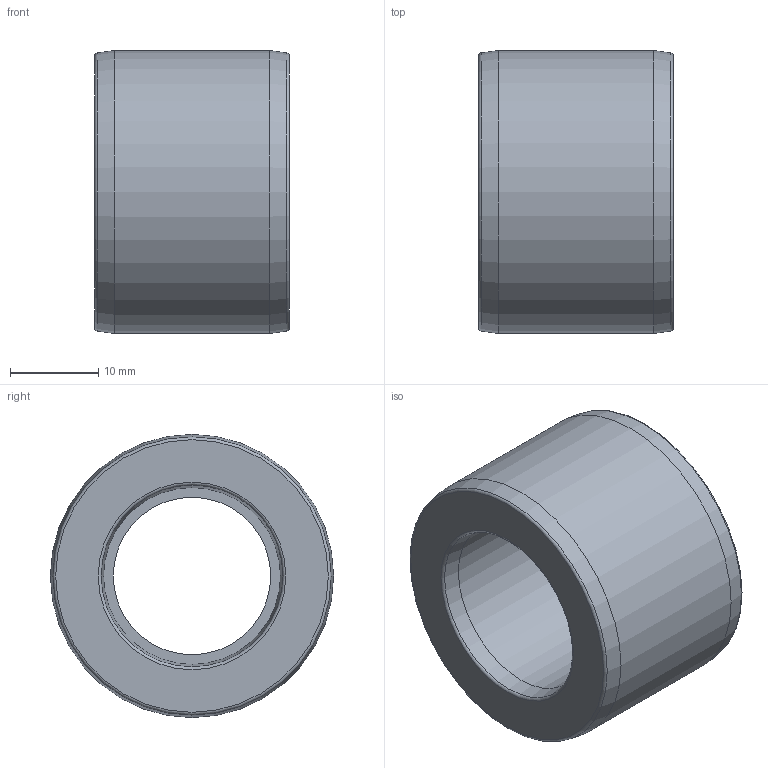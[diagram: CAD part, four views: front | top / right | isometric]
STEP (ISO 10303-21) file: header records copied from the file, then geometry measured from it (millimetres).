
FILE_DESCRIPTION(/* description */ ('PLASSON BUSHING-CEMENT PVC 32-20'),/* implementation_level */ '2;1');
FILE_NAME(/* name */ 'C:\Dropbox\KIMPROJECTS-Inventor\99-16-3568-Processing\PVC Catalog 2017\050900\050900032020.ipt.stp',/* time_stamp */ '2017-12-07T15:59:16+02:00',/* author */ ('KIM'),/* organization */ (''),/* preprocessor_version */ 'ST-DEVELOPER v15.6',/* originating_system */ 'Autodesk Inventor 2015',/* authorisation */ '');
FILE_SCHEMA (('AUTOMOTIVE_DESIGN { 1 0 10303 214 3 1 1 }'));
Length unit declared in the file: millimetre
Products named in the file (1): 050900032020
Bounding box: 22 x 32 x 32 mm (x, y, z)
Volume: 10655 mm3; surface area: 4464 mm2
Topology: 1 solids, 1 shells, 15 faces, 27 edges, 15 vertices
Faces by surface type: torus 5, cone 4, cylinder 3, plane 3
Full cylindrical faces by diameter (mm): 17.8 x1, 20 x1, 32 x1
Entity records: 332 total; most frequent: DIRECTION 62, CARTESIAN_POINT 46, AXIS2_PLACEMENT_3D 31, EDGE_LOOP 30, ORIENTED_EDGE 30, FACE_BOUND 15, FACE_OUTER_BOUND 15, CIRCLE 15
